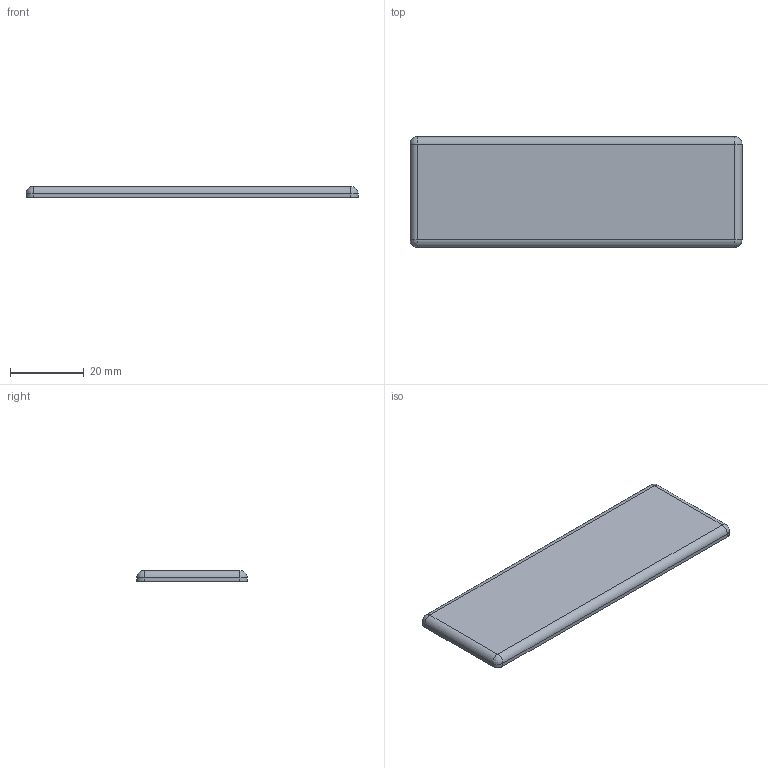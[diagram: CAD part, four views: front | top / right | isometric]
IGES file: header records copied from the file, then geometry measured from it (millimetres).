
Start section: SolidWorks IGES file using analytic representation for surfaces
Global section: file name: C:\Documents and Settings\Administrator\デスクトップ\指定保存後3回目\SolidWorks\SF\SF30\Parts\SFA-013.IGS; native system: SolidWorks 2006 by SolidWorks Corporation; preprocessor: SolidWorks 2006 by SolidWorks Corporation; author: Administrator; date: 061213.104520; units: millimetre
Bounding box: 90 x 30 x 3 mm (x, y, z)
Surface area: 5898 mm2 (no closed solid volume)
Topology: 0 solids, 0 shells, 18 faces, 140 edges, 172 vertices
Faces by surface type: revolution 12, bspline 6
